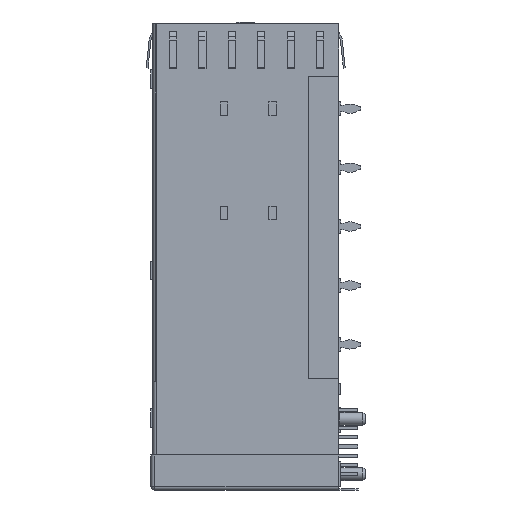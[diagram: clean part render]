
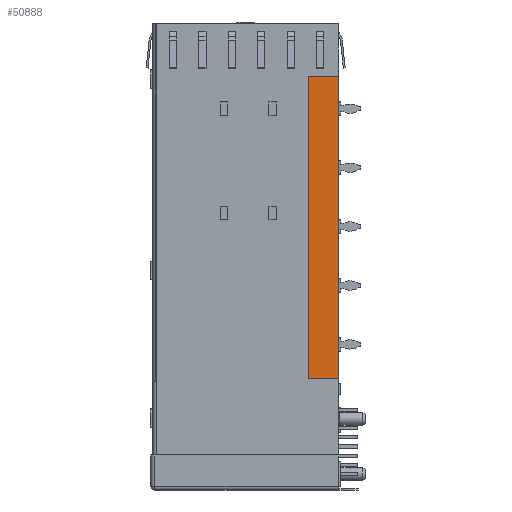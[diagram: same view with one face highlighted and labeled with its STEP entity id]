
A CAD part, left-side view. The second image highlights one B-rep face of the part: STEP entity #50888.
In plain terms, the highlighted planar face has unit normal (-1, 0, 0).
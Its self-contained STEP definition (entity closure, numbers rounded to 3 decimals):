
#1503 = DIRECTION ( 'NONE',  ( 0., 1., 0. ) ) ;
#4107 = VECTOR ( 'NONE', #57278, 1000. ) ;
#4890 = CARTESIAN_POINT ( 'NONE',  ( -28.875, 0., 0. ) ) ;
#7807 = CARTESIAN_POINT ( 'NONE',  ( -28.875, 0., -48.1 ) ) ;
#8848 = CARTESIAN_POINT ( 'NONE',  ( -28.875, 4.1, -7.1 ) ) ;
#13275 = EDGE_CURVE ( 'NONE', #18388, #58838, #21089, .T. ) ;
#17610 = CARTESIAN_POINT ( 'NONE',  ( -28.875, 0., -7.1 ) ) ;
#18388 = VERTEX_POINT ( 'NONE', #17610 ) ;
#20082 = LINE ( 'NONE', #62774, #4107 ) ;
#21089 = LINE ( 'NONE', #66856, #34801 ) ;
#22938 = PLANE ( 'NONE',  #60429 ) ;
#23023 = CARTESIAN_POINT ( 'NONE',  ( -28.875, 4.1, -7.1 ) ) ;
#23963 = LINE ( 'NONE', #36991, #66139 ) ;
#24906 = LINE ( 'NONE', #23023, #38563 ) ;
#26784 = DIRECTION ( 'NONE',  ( 0., 0., -1. ) ) ;
#28844 = DIRECTION ( 'NONE',  ( 1., 0., 0. ) ) ;
#34801 = VECTOR ( 'NONE', #26784, 1000. ) ;
#35745 = ORIENTED_EDGE ( 'NONE', *, *, #64896, .F. ) ;
#36991 = CARTESIAN_POINT ( 'NONE',  ( -28.875, 0., -48.1 ) ) ;
#38563 = VECTOR ( 'NONE', #74651, 1000. ) ;
#45871 = ORIENTED_EDGE ( 'NONE', *, *, #65191, .F. ) ;
#48324 = VERTEX_POINT ( 'NONE', #63749 ) ;
#50888 = ADVANCED_FACE ( 'NONE', ( #51950 ), #22938, .F. ) ;
#51950 = FACE_OUTER_BOUND ( 'NONE', #68470, .T. ) ;
#57278 = DIRECTION ( 'NONE',  ( 0., -1., 0. ) ) ;
#58838 = VERTEX_POINT ( 'NONE', #7807 ) ;
#59029 = ORIENTED_EDGE ( 'NONE', *, *, #13275, .F. ) ;
#60429 = AXIS2_PLACEMENT_3D ( 'NONE', #4890, #28844, #68836 ) ;
#62774 = CARTESIAN_POINT ( 'NONE',  ( -28.875, 0., -7.1 ) ) ;
#63270 = EDGE_CURVE ( 'NONE', #74947, #18388, #20082, .T. ) ;
#63749 = CARTESIAN_POINT ( 'NONE',  ( -28.875, 4.1, -48.1 ) ) ;
#64896 = EDGE_CURVE ( 'NONE', #48324, #74947, #24906, .T. ) ;
#65191 = EDGE_CURVE ( 'NONE', #58838, #48324, #23963, .T. ) ;
#66139 = VECTOR ( 'NONE', #1503, 1000. ) ;
#66856 = CARTESIAN_POINT ( 'NONE',  ( -28.875, 0., -7.1 ) ) ;
#68470 = EDGE_LOOP ( 'NONE', ( #70606, #35745, #45871, #59029 ) ) ;
#68836 = DIRECTION ( 'NONE',  ( 0., 0., 1. ) ) ;
#70606 = ORIENTED_EDGE ( 'NONE', *, *, #63270, .F. ) ;
#74651 = DIRECTION ( 'NONE',  ( 0., 0., 1. ) ) ;
#74947 = VERTEX_POINT ( 'NONE', #8848 ) ;
